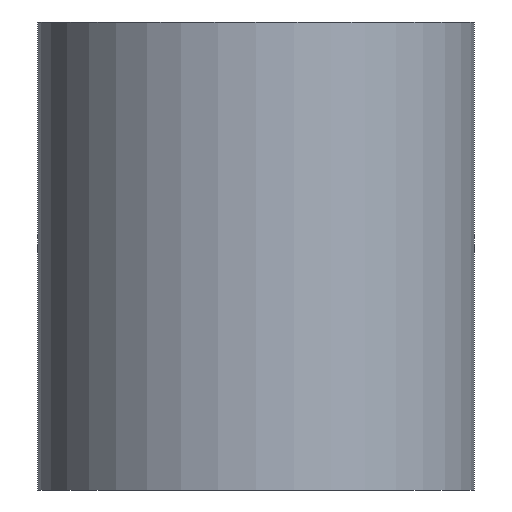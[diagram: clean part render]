
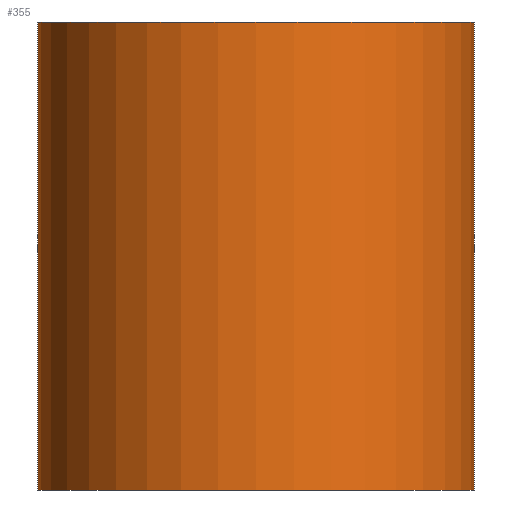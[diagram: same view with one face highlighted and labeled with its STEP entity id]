
A CAD part, front view. The second image highlights one B-rep face of the part: STEP entity #355.
In plain terms, the highlighted cylindrical face has radius 7 mm (diameter 14 mm), a full revolution.
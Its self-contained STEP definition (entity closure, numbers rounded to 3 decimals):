
#248=CARTESIAN_POINT('',(0.0,0.0,0.0));
#249=DIRECTION('',(0.0,0.0,1.0));
#250=DIRECTION('',(-1.0,0.0,0.0));
#251=AXIS2_PLACEMENT_3D('',#248,#249,#250);
#252=CYLINDRICAL_SURFACE('',#251,7.);
#253=CARTESIAN_POINT('',(7.,0.,7.5));
#254=VERTEX_POINT('',#253);
#255=CARTESIAN_POINT('',(0.0,0.0,7.5));
#256=DIRECTION('',(0.0,0.0,-1.0));
#257=DIRECTION('',(-1.0,0.0,0.0));
#258=AXIS2_PLACEMENT_3D('',#255,#256,#257);
#259=CIRCLE('',#258,7.);
#260=EDGE_CURVE('',#254,#254,#259,.T.);
#261=ORIENTED_EDGE('',*,*,#260,.T.);
#262=EDGE_LOOP('',(#261));
#263=FACE_OUTER_BOUND('',#262,.T.);
#264=CARTESIAN_POINT('',(7.,0.,-7.5));
#265=VERTEX_POINT('',#264);
#266=CARTESIAN_POINT('',(0.0,0.0,-7.5));
#267=DIRECTION('',(0.0,0.0,1.0));
#268=DIRECTION('',(-1.0,0.0,0.0));
#269=AXIS2_PLACEMENT_3D('',#266,#267,#268);
#270=CIRCLE('',#269,7.);
#271=EDGE_CURVE('',#265,#265,#270,.T.);
#272=ORIENTED_EDGE('',*,*,#271,.T.);
#273=EDGE_LOOP('',(#272));
#274=FACE_BOUND('',#273,.T.);
#275=CARTESIAN_POINT('',(-4.0,5.745,0.0));
#276=VERTEX_POINT('',#275);
#277=CARTESIAN_POINT('',(-4.0,5.745,0.));
#278=CARTESIAN_POINT('',(-4.0,5.745,0.438));
#279=CARTESIAN_POINT('',(-3.925,5.799,0.893));
#280=CARTESIAN_POINT('',(-3.776,5.894,1.319));
#281=CARTESIAN_POINT('',(-3.654,5.972,1.669));
#282=CARTESIAN_POINT('',(-3.483,6.076,2.));
#283=CARTESIAN_POINT('',(-3.276,6.186,2.295));
#284=CARTESIAN_POINT('',(-3.144,6.256,2.483));
#285=CARTESIAN_POINT('',(-2.998,6.328,2.657));
#286=CARTESIAN_POINT('',(-2.844,6.396,2.813));
#287=CARTESIAN_POINT('',(-2.715,6.454,2.944));
#288=CARTESIAN_POINT('',(-2.574,6.512,3.068));
#289=CARTESIAN_POINT('',(-2.421,6.568,3.184));
#290=CARTESIAN_POINT('',(-2.071,6.697,3.45));
#291=CARTESIAN_POINT('',(-1.663,6.814,3.667));
#292=CARTESIAN_POINT('',(-1.228,6.891,3.807));
#293=CARTESIAN_POINT('',(-0.915,6.947,3.908));
#294=CARTESIAN_POINT('',(-0.59,6.983,3.969));
#295=CARTESIAN_POINT('',(-0.269,6.995,3.991));
#296=CARTESIAN_POINT('',(-0.027,7.004,4.007));
#297=CARTESIAN_POINT('',(0.211,7.001,4.002));
#298=CARTESIAN_POINT('',(0.454,6.985,3.974));
#299=CARTESIAN_POINT('',(0.933,6.954,3.919));
#300=CARTESIAN_POINT('',(1.414,6.87,3.773));
#301=CARTESIAN_POINT('',(1.843,6.753,3.55));
#302=CARTESIAN_POINT('',(2.159,6.667,3.386));
#303=CARTESIAN_POINT('',(2.448,6.563,3.181));
#304=CARTESIAN_POINT('',(2.697,6.46,2.954));
#305=CARTESIAN_POINT('',(2.837,6.401,2.827));
#306=CARTESIAN_POINT('',(2.964,6.343,2.693));
#307=CARTESIAN_POINT('',(3.086,6.283,2.545));
#308=CARTESIAN_POINT('',(3.401,6.128,2.163));
#309=CARTESIAN_POINT('',(3.657,5.972,1.702));
#310=CARTESIAN_POINT('',(3.814,5.87,1.207));
#311=CARTESIAN_POINT('',(3.914,5.805,0.89));
#312=CARTESIAN_POINT('',(3.974,5.762,0.559));
#313=CARTESIAN_POINT('',(3.993,5.749,0.233));
#314=CARTESIAN_POINT('',(4.008,5.739,-0.015));
#315=CARTESIAN_POINT('',(3.999,5.745,-0.261));
#316=CARTESIAN_POINT('',(3.967,5.767,-0.51));
#317=CARTESIAN_POINT('',(3.907,5.809,-0.982));
#318=CARTESIAN_POINT('',(3.758,5.912,-1.451));
#319=CARTESIAN_POINT('',(3.535,6.042,-1.871));
#320=CARTESIAN_POINT('',(3.373,6.136,-2.177));
#321=CARTESIAN_POINT('',(3.173,6.244,-2.458));
#322=CARTESIAN_POINT('',(2.95,6.348,-2.701));
#323=CARTESIAN_POINT('',(2.824,6.407,-2.84));
#324=CARTESIAN_POINT('',(2.69,6.464,-2.967));
#325=CARTESIAN_POINT('',(2.542,6.522,-3.088));
#326=CARTESIAN_POINT('',(2.183,6.662,-3.384));
#327=CARTESIAN_POINT('',(1.753,6.793,-3.628));
#328=CARTESIAN_POINT('',(1.291,6.88,-3.786));
#329=CARTESIAN_POINT('',(0.974,6.939,-3.894));
#330=CARTESIAN_POINT('',(0.642,6.978,-3.962));
#331=CARTESIAN_POINT('',(0.315,6.993,-3.988));
#332=CARTESIAN_POINT('',(0.045,7.005,-4.009));
#333=CARTESIAN_POINT('',(-0.221,7.002,-4.003));
#334=CARTESIAN_POINT('',(-0.492,6.983,-3.97));
#335=CARTESIAN_POINT('',(-0.976,6.949,-3.91));
#336=CARTESIAN_POINT('',(-1.46,6.861,-3.756));
#337=CARTESIAN_POINT('',(-1.891,6.74,-3.525));
#338=CARTESIAN_POINT('',(-2.133,6.672,-3.395));
#339=CARTESIAN_POINT('',(-2.359,6.594,-3.241));
#340=CARTESIAN_POINT('',(-2.562,6.514,-3.072));
#341=CARTESIAN_POINT('',(-2.757,6.438,-2.909));
#342=CARTESIAN_POINT('',(-2.929,6.36,-2.736));
#343=CARTESIAN_POINT('',(-3.09,6.281,-2.54));
#344=CARTESIAN_POINT('',(-3.387,6.135,-2.179));
#345=CARTESIAN_POINT('',(-3.631,5.988,-1.748));
#346=CARTESIAN_POINT('',(-3.788,5.887,-1.285));
#347=CARTESIAN_POINT('',(-3.929,5.796,-0.869));
#348=CARTESIAN_POINT('',(-4.,5.745,-0.427));
#349=CARTESIAN_POINT('',(-4.,5.745,0.));
#350=B_SPLINE_CURVE_WITH_KNOTS('',3,(#277,#278,#279,#280,#281,#282,#283,#284,#285,#286,#287,#288,#289,#290,#291,#292,#293,#294,#295,#296,#297,#298,#299,#300,#301,#302,#303,#304,#305,#306,#307,#308,#309,#310,#311,#312,#313,#314,#315,#316,#317,#318,#319,#320,#321,#322,#323,#324,#325,#326,#327,#328,#329,#330,#331,#332,#333,#334,#335,#336,#337,#338,#339,#340,#341,#342,#343,#344,#345,#346,#347,#348,#349),.UNSPECIFIED.,.T.,.U.,(4,3,3,3,3,3,3,3,3,3,3,3,3,3,3,3,3,3,3,3,3,3,3,3,4),(0.0,0.131,0.239,0.308,0.366,0.498,0.593,0.665,0.806,0.91,0.968,1.119,1.216,1.29,1.429,1.531,1.59,1.731,1.828,1.907,2.05,2.131,2.208,2.35,2.478),.UNSPECIFIED.);
#351=EDGE_CURVE('',#276,#276,#350,.T.);
#352=ORIENTED_EDGE('',*,*,#351,.F.);
#353=EDGE_LOOP('',(#352));
#354=FACE_BOUND('',#353,.T.);
#355=ADVANCED_FACE('',(#263,#274,#354),#252,.T.);
